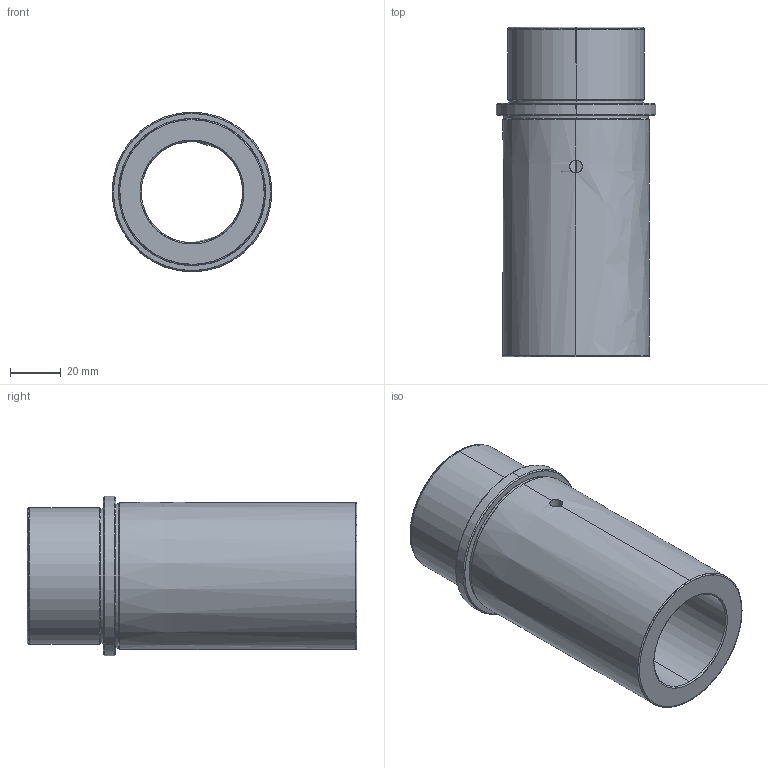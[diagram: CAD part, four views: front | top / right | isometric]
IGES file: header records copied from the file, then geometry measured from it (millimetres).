
Start section: SolidWorks IGES file using analytic representation for surfaces
Global section: file name: D:\Cleonir_arquivos\MT_15_07\Buchas Desmontáveis Extralongas\BXL40130.igs; native system: SolidWorks 2013; preprocessor: SolidWorks 2013; author: Cleonir; date: 130726.191245; units: millimetre
Bounding box: 63 x 130 x 63 mm (x, y, z)
Surface area: 43636.5 mm2 (no closed solid volume)
Topology: 0 solids, 0 shells, 325 faces, 4578 edges, 4578 vertices
Faces by surface type: bspline 273, revolution 52
